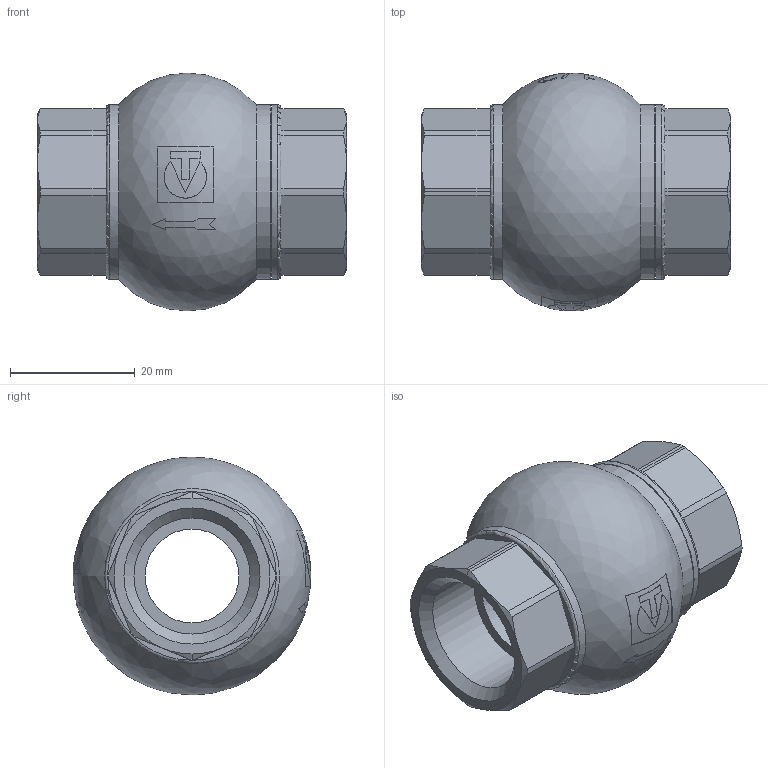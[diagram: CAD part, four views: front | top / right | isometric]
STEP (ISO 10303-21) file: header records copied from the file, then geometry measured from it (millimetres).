
FILE_DESCRIPTION(('TFLEX Exchange Step'),'2;1');
FILE_NAME('Check valve DN15, 1_2 VT.151.N.04 Valtec.stp', '2023-09-12T12:44:26+03:00',('denis'),('Unknown organisation'),'TFLEX Exchange 2023.0','T-FLEX CAD','Unknown authorisation');
FILE_SCHEMA( ('AUTOMOTIVE_DESIGN { 1 0 10303 214 1 1 1 1 }') );
Length unit declared in the file: millimetre
Products named in the file (1): Nodes
Bounding box: 49.5 x 38.1 x 38.1 mm (x, y, z)
Volume: 25021.6 mm3; surface area: 9003 mm2
Topology: 1 solids, 1 shells, 158 faces, 424 edges, 281 vertices
Faces by surface type: plane 82, cylinder 30, cone 23, bspline 21, torus 2
Full cylindrical faces by diameter (mm): 15 x1, 18.6 x2, 26 x1, 26.648 x1, 28 x3
Entity records: 7778 total; most frequent: CARTESIAN_POINT 4297, ORIENTED_EDGE 848, DIRECTION 552, EDGE_CURVE 424, VERTEX_POINT 281, AXIS2_PLACEMENT_3D 211, EDGE_LOOP 173, FACE_BOUND 173
